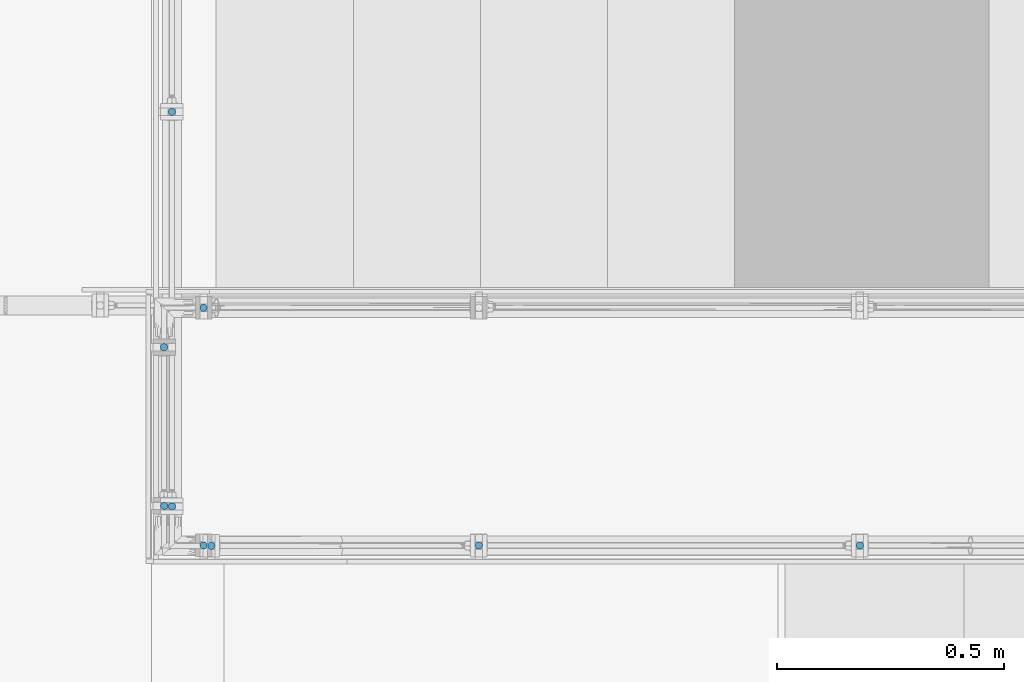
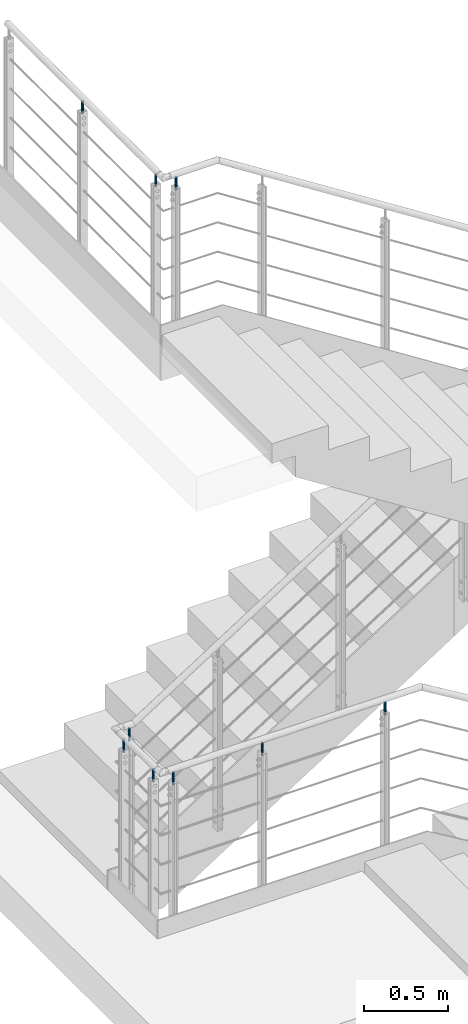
# One storey, part 8 of 98: 9 columns.
"""IFC2X3 building model written with IfcOpenShell, lengths in millimetres."""

from ifc_helpers import new_model, entity, si_unit, converted_unit, frame, origin, origin_with_axes, origin_2d, place, context, project, spatial, circle, extrude, material, element, save


model = new_model("IFC2X3")

# Units and contexts
model_context = context("Model", 3, precision=1e-09, world=origin_with_axes())
ifc_project = project(units=[si_unit("LENGTHUNIT", "METRE", prefix="MILLI"), si_unit("AREAUNIT", "SQUARE_METRE"), si_unit("VOLUMEUNIT", "CUBIC_METRE"), converted_unit("PLANEANGLEUNIT", "DEGREE", entity("IfcPlaneAngleMeasure", 0.01745329), si_unit("PLANEANGLEUNIT", "RADIAN"), dimensions=[0, 0, 0, 0, 0, 0, 0])], contexts=[model_context])

# Site, building, storey
site_placement = place(None, origin_with_axes())
site = spatial("IfcSite", under=ifc_project, at=site_placement, Name="Maybachstra?e 2, 71563 Affalterbach", CompositionType="ELEMENT")
building_placement = place(site_placement, origin_with_axes())
building = spatial("IfcBuilding", under=site, at=building_placement, Name="Struktur 1", CompositionType="ELEMENT")
storey_placement = place(building_placement, origin_with_axes())
storey = spatial("IfcBuildingStorey", under=building, at=storey_placement, Name="Default Storey", CompositionType="ELEMENT", Elevation=0.0)

# Columns
ifc_material = material(Name="1.4301")
for number, where, z_axis, x_axis in (
    (1, (8855.029157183, -569.0, 4457.6), (0.0, 0.0, 1.0), (-1.0, 0.0, 0.0)),
    (2, (8015.029157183, -569.0, 4457.6), (0.0, 0.0, 1.0), (-1.0, 0.0, 0.0)),
    (3, (7408.029157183, -569.0, 4457.6), (0.0, 0.0, 1.0), (-1.0, 0.0, 0.0)),
    (4, (7425.029157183, -570.0, 8752.599999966), (0.0, 0.0, 1.0), (-1.0, 0.0, 0.0)),
):
    element("IfcColumn", number, at=place(None, frame(where, z_axis=z_axis, x_axis=x_axis)), inside=storey, material=ifc_material, Name="-", ObjectType="-", context=model_context, shape_type="SweptSolid", body=[
        extrude(circle(Radius=8.0, at=origin_2d()), origin(), (0.0, 0.0, -1.0), 95.0),
    ])
column_placement = place(None, frame((7408.029157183, -45.0, 4457.6), z_axis=(0.0, 0.0, -1.0), x_axis=(1.0, 0.0, 0.0)))
element("IfcColumn", 5, at=column_placement, inside=storey, material=ifc_material, Name="-", ObjectType="-", context=model_context, shape_type="SweptSolid", body=[
    extrude(circle(Radius=8.0, at=origin_2d()), origin(), (0.0, 0.0, 1.0), 95.0),
])
for number, where, z_axis, x_axis in (
    (6, (7321.028157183, -482.0, 4457.6), (0.0, 0.0, 1.0), (0.0, 1.0, 0.0)),
    (7, (7321.028157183, -132.0, 4457.6), (0.0, 0.0, 1.0), (0.0, 1.0, 0.0)),
    (8, (7338.029157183, 387.0, 8752.599999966), (0.0, 0.0, 1.0), (0.0, 1.0, 0.0)),
    (9, (7338.029157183, -483.0, 8752.599999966), (0.0, 0.0, 1.0), (0.0, 1.0, 0.0)),
):
    element("IfcColumn", number, at=place(None, frame(where, z_axis=z_axis, x_axis=x_axis)), inside=storey, material=ifc_material, Name="-", ObjectType="-", context=model_context, shape_type="SweptSolid", body=[
        extrude(circle(Radius=8.0, at=origin_2d()), origin(), (0.0, 0.0, -1.0), 95.0),
    ])

save(model, "model.ifc")
